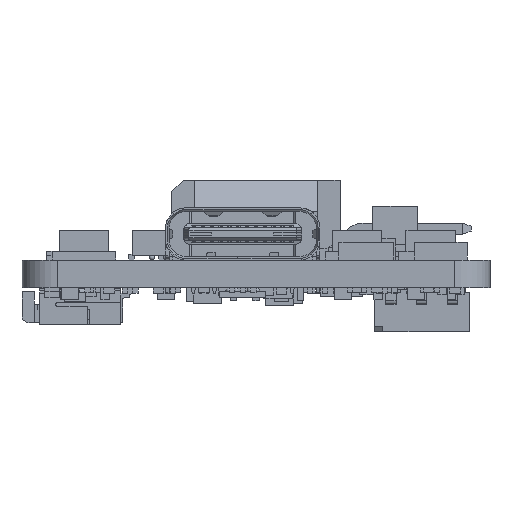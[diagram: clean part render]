
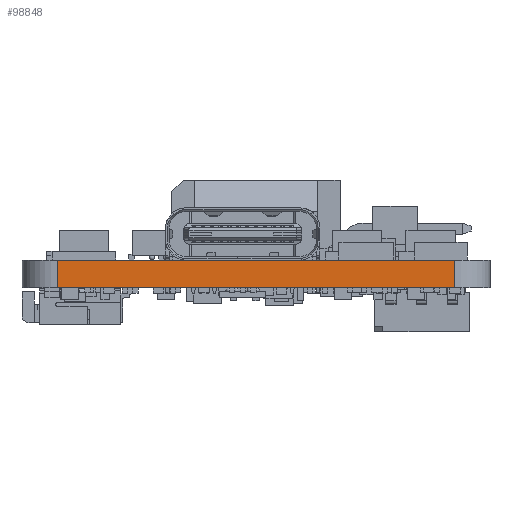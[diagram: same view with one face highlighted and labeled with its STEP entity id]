
A CAD part, left-side view. The second image highlights one B-rep face of the part: STEP entity #98848.
In plain terms, the highlighted planar face has unit normal (-1, 0, 0).
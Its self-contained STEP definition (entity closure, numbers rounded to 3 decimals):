
#3750=PLANE('',#109048);
#8335=FACE_OUTER_BOUND('',#13957,.T.);
#13957=EDGE_LOOP('',(#69693,#69694,#69695,#69696));
#21511=LINE('',#145857,#33756);
#21524=LINE('',#145897,#33769);
#21525=LINE('',#145900,#33770);
#21526=LINE('',#145901,#33771);
#33756=VECTOR('',#117230,1.);
#33769=VECTOR('',#117269,1.);
#33770=VECTOR('',#117274,1.);
#33771=VECTOR('',#117275,1.);
#46001=VERTEX_POINT('',#145855);
#46002=VERTEX_POINT('',#145856);
#46015=VERTEX_POINT('',#145894);
#46016=VERTEX_POINT('',#145896);
#55443=EDGE_CURVE('',#46001,#46002,#21511,.T.);
#55463=EDGE_CURVE('',#46015,#46016,#21524,.T.);
#55465=EDGE_CURVE('',#46015,#46001,#21525,.T.);
#55466=EDGE_CURVE('',#46016,#46002,#21526,.T.);
#69693=ORIENTED_EDGE('',*,*,#55463,.F.);
#69694=ORIENTED_EDGE('',*,*,#55465,.T.);
#69695=ORIENTED_EDGE('',*,*,#55443,.T.);
#69696=ORIENTED_EDGE('',*,*,#55466,.F.);
#98848=ADVANCED_FACE('',(#8335),#3750,.F.);
#109048=AXIS2_PLACEMENT_3D('',#145899,#117272,#117273);
#117230=DIRECTION('',(0.,0.,1.));
#117269=DIRECTION('',(0.,0.,1.));
#117272=DIRECTION('center_axis',(1.,0.,0.));
#117273=DIRECTION('ref_axis',(0.,-1.,0.));
#117274=DIRECTION('',(0.,-1.,0.));
#117275=DIRECTION('',(0.,-1.,0.));
#145855=CARTESIAN_POINT('',(-3.5,-20.992,-1.555));
#145856=CARTESIAN_POINT('',(-3.5,-20.992,0.));
#145857=CARTESIAN_POINT('',(-3.5,-20.992,-1.555));
#145894=CARTESIAN_POINT('',(-3.5,1.492,-1.555));
#145896=CARTESIAN_POINT('',(-3.5,1.492,0.));
#145897=CARTESIAN_POINT('',(-3.5,1.492,-1.555));
#145899=CARTESIAN_POINT('Origin',(-3.5,1.492,-1.555));
#145900=CARTESIAN_POINT('',(-3.5,1.492,-1.555));
#145901=CARTESIAN_POINT('',(-3.5,1.492,0.));
